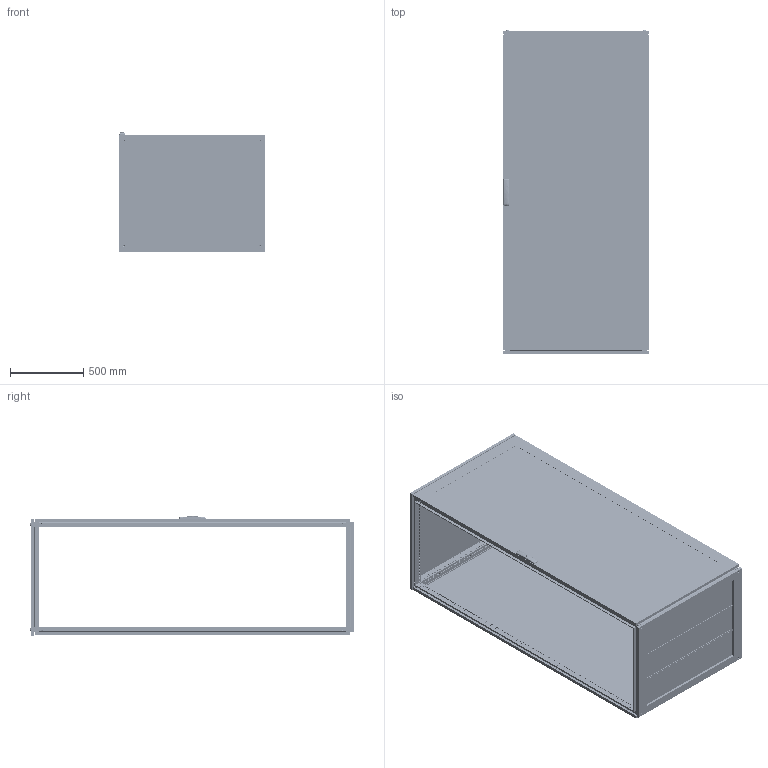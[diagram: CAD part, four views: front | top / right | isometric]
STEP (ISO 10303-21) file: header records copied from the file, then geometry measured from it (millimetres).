
FILE_DESCRIPTION (( 'STEP AP203' ), '1' );
FILE_NAME ('R5CQEN22108AX.STEP', '2025-05-07T12:13:21', ( '' ), ( '' ), 'SwSTEP 2.0', 'SolidWorks 2022', '' );
FILE_SCHEMA (( 'CONFIG_CONTROL_DESIGN' ));
Length unit declared in the file: millimetre
Products named in the file (65): RB.2702.00.00.0 simple; RB.2499.01.00.0 СБ simple_-26; M8x12 AC00C476 cl.8,8 Zinc_stright; M6 DIN 985 cl.6,0 Zinc_straight; RB.1867.01.00.0 СБ simple_-61; Pressing stud FH-M6-12_M6x12mm; RB.2696.00.00.0 simple; RB.2680.00.02.0 simple; RB.2968.00.00.0 simple; RB.2685.00.00.0 simple_-03; R5NKTB - Assem simple_H=2200 R5NKTB108; AC00C446-R; RB.2052.01.00.0 СБ simple_-31; RB.2456.00.00.0 simple_-03; RB.1633.00.02.0 simple_-03; M6x10 DIN 7500 E HX cl.5.8 Zinc_straight; R5NCPTE - Assem simple_R5NCPTE22100; TPA.08.0084.00.00.0 simple; TPA.08.0083.00.00.0 simple; ATOS Traction guide ILY03.35; 4,0x16 F Torx Zinc (ART 88200)_thread; M6x15 Erickson cl.4,8 Zinc; M12x16 ISO 7380-1 HX cl.4,8 Zinc_straight; RB.0528.04.00.0 СБ simple; PF 7x14 CRE simple_2200x1000; RB.2455.00.00.0 simple_-04; RB.2457.00.00.0 СБ simple_-27; Glass CPTE_2200x1000; RB.1957.00.00.0 simple_-16; R5CQEN22108AX; RB.2755.00.00.0 СБ simple_-27; RB.2172.00.00.1 simple; RB.1867.01.01.0 simple_-18; RB.2969.00.01.0 simple; Glue CPTE simple_2200x1000; R5NCRE-Assem simple_R5NCRE22100; RB.0562.01.01.0 simple_-20; 7 DIN 6799 Zinc simple; RB.2680.00.00.0 СБ simple; М6х12 A5100231_straight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
Assembly tree (176 placements, depth 5):
  R5CQEN22108AX
    R5NCPTE - Assem simple_R5NCPTE22100
      RB.0562.00.00.0 СБ simple_-20
        RB.0562.01.00.0 СБ simple_-20
          RB.0562.01.01.0 simple_-20
          М6х12 A5100231_straight  x9
          RB.2702.00.00.0 simple  x4
          PF 7,5x15 CPE simple_2200x1000
          Glass CPTE_2200x1000
          Glue CPTE simple_2200x1000
        Square cap 20x20 simple  x2
        M6x15 Erickson cl.4,8 Zinc  x3
        RB.0528.00.01.0 simple_-06  x2
        ATOS Traction guide ILY03.35  x4
        RB.2357.00.00.0 simple_-07
        RB.2680.00.00.0 СБ simple
          TPA.08.0139.00.01.0 simple
          RB.2680.00.01.0 simple
          RB.2680.00.02.0 simple  x2
        TPA.08.0139.00.03.0  x2
        M6 DIN 985 cl.6,0 Zinc_straight  x4
        4,0x16 F Torx Zinc (ART 88200)_thread  x2
        RB.0528.04.00.0 СБ simple  x2
          RB.0528.04.01.0 simple
          Pressing stud FH-M6-12_M6x12mm
      M6x10 DIN 912 HX cl.8,8 Zinc_straight  x8
      4.8x13 DIN 7981 PH Zinc_straight
      7 DIN 6799 Zinc simple  x4
      RB.2968.00.00.0 simple  x4
      RB.2969.00.00.0 СБ simple  x4
        RB.2969.00.01.0 simple
        Pin 4x16 DIN 7 AISI 303 (A1) simple
        M6 MGR-MKO-0625 simple_Thread
      AC00C446-R
      RB.2696.00.00.0 simple  x4
      7 DIN 6799 Zinc  x4
    R5NCRE-Assem simple_R5NCRE22100
      RB.2052.00.00.0 СБ simple_-31
        RB.2052.01.00.0 СБ simple_-31
          RB.0054.01.01.0 simple_-31
          М6х12 A5100231_straight  x4
        PF 7x14 CRE simple_2200x1000
      RB.2172.00.00.1 simple  x8
      M6x10 DIN 7500 E HX cl.5.8 Zinc_straight  x8
      M6x10 DIN 7500 M Torx cl.5.8 Zinc_straight  x8
    R5NKMN - Assem simple_R5NKMN22 (1000х800)
      RB.2528.00.00.0 simple_-06  x4
    R5NKTB - Assem simple_H=2200 R5NKTB108
      RB.2499.00.00.0 СБ simple_-27
        RB.2499.01.00.0 СБ simple_-26
          RB.1633.00.01.0 simple_-04  x2
          RB.1633.00.02.0 simple_-03  x2
          PF 5x10 KTB simple_1000x800
        RB.2457.00.00.0 СБ simple_-27
          RB.2455.00.00.0 simple_-04  x2
          RB.2456.00.00.0 simple_-03  x2
          TPA.08.0084.00.00.0 simple  x2
          TPA.08.0083.00.00.0 simple  x2
          M8x12 AC00C476 cl.8,8 Zinc_stright  x4
        RB.1957.00.00.0 simple_-16  x3
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Bounding box: 1000 x 2213.3 x 814.79 mm (x, y, z)
Volume: 21946805.4 mm3; surface area: 20723291.1 mm2
Topology: 175 solids, 203 shells, 25821 faces, 73767 edges, 48780 vertices
Faces by surface type: plane 14147, cylinder 10123, cone 714, bspline 435, torus 368, sphere 34
Full cylindrical faces by diameter (mm): 4.25 x4
Entity records: 254425 total; most frequent: CARTESIAN_POINT 60578, ORIENTED_EDGE 38618, DIRECTION 37161, EDGE_CURVE 19335, VERTEX_POINT 12818, AXIS2_PLACEMENT_3D 12520, LINE 12121, VECTOR 12121
